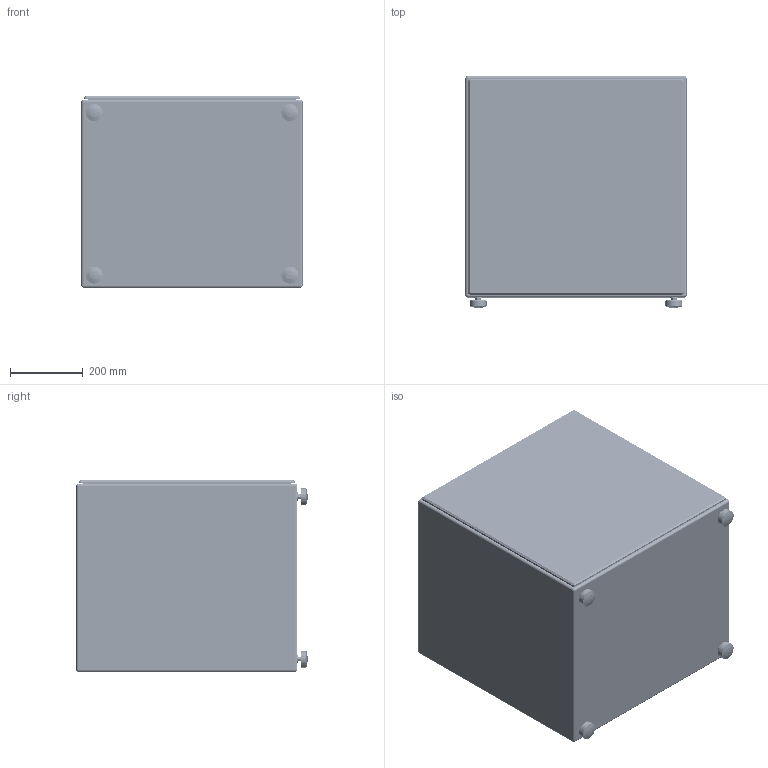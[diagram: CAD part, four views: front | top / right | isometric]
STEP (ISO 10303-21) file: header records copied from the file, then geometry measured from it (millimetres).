
FILE_DESCRIPTION(/* description */ ('','CAx-IF Rec.Pracs.---Representation and Presentation of Product Manufacturing Information (PMI)---4.0---2014-10-13'),/* implementation_level */ '2;1');
FILE_NAME(/* name */ '3D_THE21 SUB WF PRO PASSIVE SEALED_Public_SI.step',/* time_stamp */ '2025-01-29T14:21:55+01:00',/* author */ (''),/* organization */ (''),/* preprocessor_version */ 'ST-DEVELOPER v20',/* originating_system */ 'Autodesk Translation Framework v13.20.0.188',/* authorisation */ '');
FILE_SCHEMA (('AP242_MANAGED_MODEL_BASED_3D_ENGINEERING_MIM_LF { 1 0 10303 442 1 1 4 }'));
Products named in the file (3): The21 SUB WF Cabinet + Grill; The21 SUB WF; Grill
Assembly tree (2 placements, depth 2):
  The21 SUB WF Cabinet + Grill
    The21 SUB WF
    Grill
Bounding box: 610 x 638.4 x 528 mm (x, y, z)
Volume: 185356215.2 mm3; surface area: 3138800.8 mm2
Topology: 2 solids, 189 shells, 6247 faces, 15264 edges, 8924 vertices
Faces by surface type: bspline 2013, plane 1610, cylinder 1549, torus 468, cone 346, sphere 261
Full cylindrical faces by diameter (mm): 4 x4, 5 x1, 6 x10, 6.779 x64, 8 x10, 8.17 x56, 8.6 x4, 10 x12, 10.02 x8, 10.22 x8, 10.3 x12, 11.6 x8, 12.4 x8, 12.5 x8, 14 x4, 14.9 x1, 17.6 x1, 21 x1, 23.6 x7, 24 x2, 24.25 x1, 25.9 x1, 26.5 x1, 47 x4, 166 x1, 497 x1, 512 x1, 548 x1
Entity records: 412375 total; most frequent: CARTESIAN_POINT 281121, ORIENTED_EDGE 29252, DIRECTION 24643, EDGE_CURVE 14626, AXIS2_PLACEMENT_3D 9885, VERTEX_POINT 8924, EDGE_LOOP 6452, FACE_OUTER_BOUND 6247
